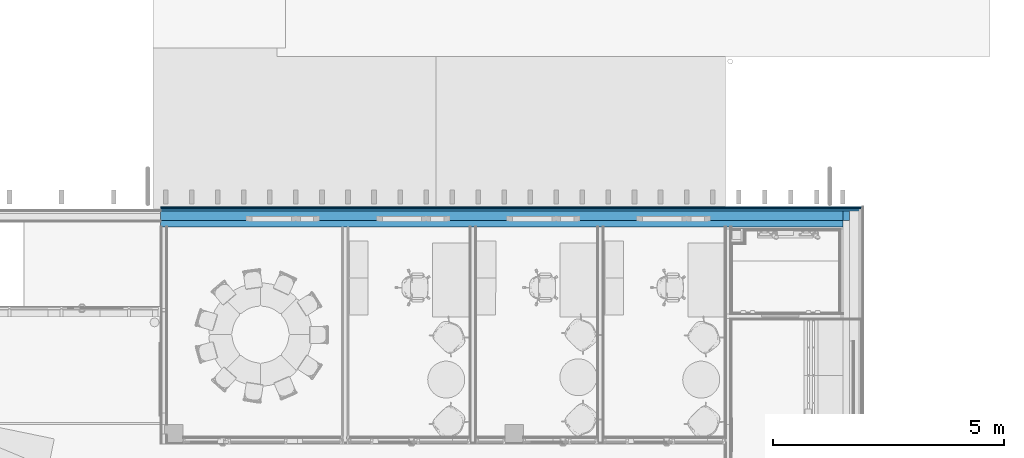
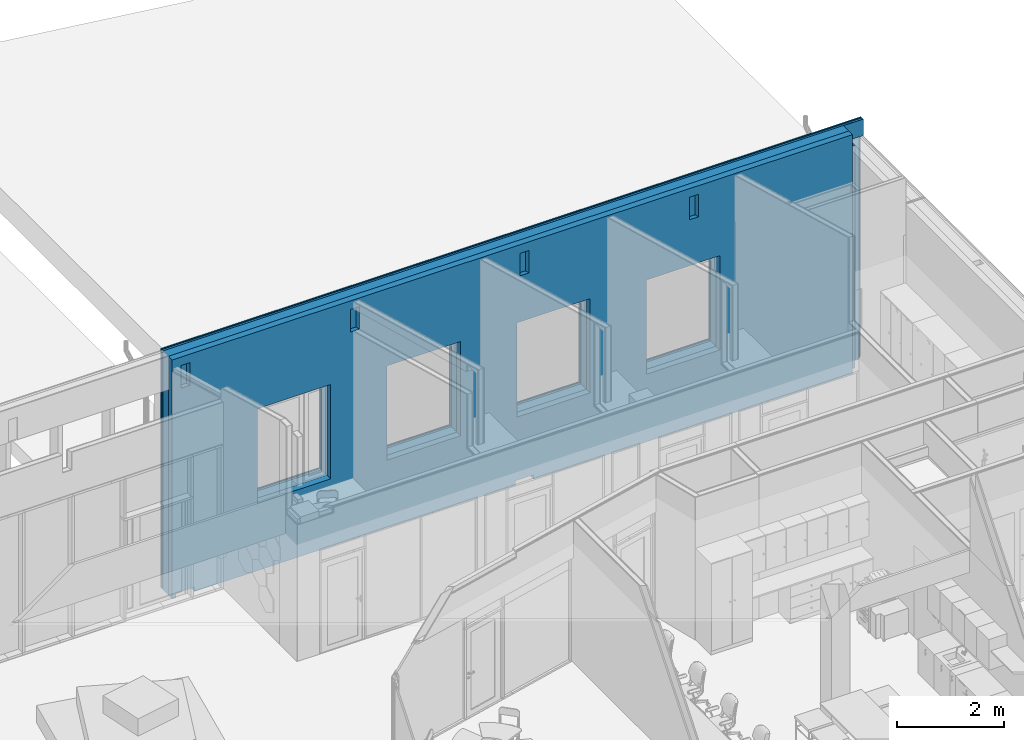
# One storey, part 48 of 153: 5 building element parts, 4 openings, 1 element without a shape of its own.
"""IFC2X3 building model written with IfcOpenShell, lengths in millimetres."""

from ifc_helpers import new_model, entity, si_unit, converted_unit, derived_unit, money_unit, direction, frame, origin_with_axes, place, context, subcontext, project, spatial, faceted_brep, material, type_object, element, aggregate, save


model = new_model("IFC2X3")

# Units and contexts
model_context = context("Model", 3, precision=0.01, world=origin_with_axes(), true_north=direction((0.0, 1.0)))
body_context = subcontext(model_context, "Body", "Model", "MODEL_VIEW")
ifc_project = project(units=[si_unit("LENGTHUNIT", "METRE", prefix="MILLI"), si_unit("AREAUNIT", "SQUARE_METRE"), si_unit("VOLUMEUNIT", "CUBIC_METRE"), converted_unit("PLANEANGLEUNIT", "DEGREE", entity("IfcPlaneAngleMeasure", 0.0174532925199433), si_unit("PLANEANGLEUNIT", "RADIAN"), dimensions=[0, 0, 0, 0, 0, 0, 0]), money_unit("EUR"), converted_unit("TIMEUNIT", "Year", entity("IfcTimeMeasure", 31557600.0), si_unit("TIMEUNIT", "SECOND"), dimensions=[0, 0, 1, 0, 0, 0, 0]), si_unit("MASSUNIT", "GRAM", prefix="KILO"), si_unit("THERMODYNAMICTEMPERATUREUNIT", "DEGREE_CELSIUS"), si_unit("LUMINOUSINTENSITYUNIT", "LUMEN"), si_unit("ENERGYUNIT", "JOULE", prefix="MEGA"), derived_unit("THERMALCONDUCTANCEUNIT", [(si_unit("POWERUNIT", "WATT"), 1), (si_unit("LENGTHUNIT", "METRE"), -1), (si_unit("THERMODYNAMICTEMPERATUREUNIT", "KELVIN"), -1)]), derived_unit("SPECIFICHEATCAPACITYUNIT", [(si_unit("ENERGYUNIT", "JOULE"), 1), (si_unit("MASSUNIT", "GRAM", prefix="KILO"), -1), (si_unit("THERMODYNAMICTEMPERATUREUNIT", "KELVIN"), -1)]), derived_unit("MASSDENSITYUNIT", [(si_unit("MASSUNIT", "GRAM", prefix="KILO"), 1), (si_unit("VOLUMEUNIT", "CUBIC_METRE"), -1)])], contexts=[model_context])

# Site, building, storey
site_placement = place(None, frame((0.0, 0.0, 8650.0), z_axis=(0.0, 0.0, 1.0), x_axis=(1.0, 0.0, 0.0)))
site = spatial("IfcSite", under=ifc_project, at=site_placement, Name="43301:001:0844", CompositionType="ELEMENT")
building_placement = place(site_placement, origin_with_axes())
building = spatial("IfcBuilding", under=site, at=building_placement, Name="Kuressaare Ametikooli tuulikute mehaanikute õppekorpus", CompositionType="ELEMENT")
storey_placement = place(building_placement, frame((0.0, 0.0, 4100.0), z_axis=(0.0, 0.0, 1.0), x_axis=(1.0, 0.0, 0.0)))
storey = spatial("IfcBuildingStorey", under=building, at=storey_placement, Name="2.korrus", CompositionType="ELEMENT", Elevation=4100.0)

# Wall, openings, building element parts
wall_type = type_object("IfcWallType", Name="VS1 437", PredefinedType="NOTDEFINED")
wall_placement = place(storey_placement, frame((118281.2757303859, 28244.06892395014, -1400.0), z_axis=(0.0, 0.0, 1.0), x_axis=(1.0, 0.0, 0.0)))
wall = element("IfcWall", 1, at=wall_placement, inside=storey, type_object=wall_type, Name="Sisesein")
opening_1_placement = place(wall_placement, frame((5453.826951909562, 0.0, 1550.000000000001), z_axis=(0.0, 0.0, 1.0), x_axis=(1.0, 0.0, 0.0)))
element("IfcOpeningElement", 2, at=opening_1_placement, cuts=wall, Name="A-2", context=body_context, shape_type="Brep", body=[
    faceted_brep([(-795.0000000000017, 236.9999999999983, 0.0), (-795.0000000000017, 236.9999999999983, 2160.0), (-795.0000000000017, 438.0000000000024, 2160.0), (-795.0000000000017, 438.0000000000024, 0.0), (-795.0000000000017, -1.000000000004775, 0.0), (-795.0000000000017, -1.000000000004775, 2160.0), (795.0000000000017, 236.9999999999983, 2160.0), (795.0000000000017, 438.0000000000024, 2160.0), (795.0000000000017, -1.000000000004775, 2160.0), (795.0000000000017, 438.0000000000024, 0.0), (795.0000000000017, 236.9999999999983, 0.0), (795.0000000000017, -1.000000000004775, 0.0)], [[[0, 1, 2, 3]], [[1, 0, 4, 5]], [[6, 7, 2, 1, 5, 8]], [[7, 9, 3, 2]], [[0, 3, 9, 10, 11, 4]], [[5, 4, 11, 8]], [[6, 10, 9, 7]], [[10, 6, 8, 11]]]),
])
opening_2_placement = place(wall_placement, frame((8265.82695190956, 0.0, 1550.000000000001), z_axis=(0.0, 0.0, 1.0), x_axis=(1.0, 0.0, 0.0)))
element("IfcOpeningElement", 3, at=opening_2_placement, cuts=wall, Name="A-2", context=body_context, shape_type="Brep", body=[
    faceted_brep([(-795.0000000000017, 237.0000000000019, 0.0), (-795.0000000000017, 237.0000000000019, 2160.0), (-795.0000000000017, 438.0000000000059, 2160.0), (-795.0000000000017, 438.0000000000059, 0.0), (-795.0000000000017, -1.000000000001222, 0.0), (-795.0000000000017, -1.000000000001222, 2160.0), (795.0000000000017, 237.0000000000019, 2160.0), (795.0000000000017, 438.0000000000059, 2160.0), (795.0000000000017, -1.000000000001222, 2160.0), (795.0000000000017, 438.0000000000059, 0.0), (795.0000000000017, 237.0000000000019, 0.0), (795.0000000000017, -1.000000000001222, 0.0)], [[[0, 1, 2, 3]], [[1, 0, 4, 5]], [[6, 7, 2, 1, 5, 8]], [[7, 9, 3, 2]], [[0, 3, 9, 10, 11, 4]], [[5, 4, 11, 8]], [[6, 10, 9, 7]], [[10, 6, 8, 11]]]),
])
opening_3_placement = place(wall_placement, frame((11077.82695190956, 0.0, 1550.000000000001), z_axis=(0.0, 0.0, 1.0), x_axis=(1.0, 0.0, 0.0)))
element("IfcOpeningElement", 4, at=opening_3_placement, cuts=wall, Name="A-2", context=body_context, shape_type="Brep", body=[
    faceted_brep([(-794.9999999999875, 237.0000000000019, 0.0), (-794.9999999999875, 237.0000000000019, 2160.0), (-794.9999999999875, 438.0000000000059, 2160.0), (-794.9999999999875, 438.0000000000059, 0.0), (-794.9999999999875, -1.000000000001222, 0.0), (-794.9999999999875, -1.000000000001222, 2160.0), (794.9999999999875, 237.0000000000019, 2160.0), (794.9999999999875, 438.0000000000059, 2160.0), (794.9999999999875, -1.000000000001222, 2160.0), (794.9999999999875, 438.0000000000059, 0.0), (794.9999999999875, 237.0000000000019, 0.0), (794.9999999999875, -1.000000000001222, 0.0)], [[[0, 1, 2, 3]], [[1, 0, 4, 5]], [[6, 7, 2, 1, 5, 8]], [[7, 9, 3, 2]], [[0, 3, 9, 10, 11, 4]], [[5, 4, 11, 8]], [[6, 10, 9, 7]], [[10, 6, 8, 11]]]),
])
opening_4_placement = place(wall_placement, frame((2641.826951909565, 0.0, 1550.000000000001), z_axis=(0.0, 0.0, 1.0), x_axis=(1.0, 0.0, 0.0)))
element("IfcOpeningElement", 5, at=opening_4_placement, cuts=wall, Name="A-2", context=body_context, shape_type="Brep", body=[
    faceted_brep([(-795.0000000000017, 236.9999999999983, 0.0), (-795.0000000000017, 236.9999999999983, 2160.0), (-795.0000000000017, 438.0000000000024, 2160.0), (-795.0000000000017, 438.0000000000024, 0.0), (-795.0000000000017, -1.000000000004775, 0.0), (-795.0000000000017, -1.000000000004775, 2160.0), (795.0000000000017, 236.9999999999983, 2160.0), (795.0000000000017, 438.0000000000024, 2160.0), (795.0000000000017, -1.000000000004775, 2160.0), (795.0000000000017, 438.0000000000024, 0.0), (795.0000000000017, 236.9999999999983, 0.0), (795.0000000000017, -1.000000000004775, 0.0)], [[[0, 1, 2, 3]], [[1, 0, 4, 5]], [[6, 7, 2, 1, 5, 8]], [[7, 9, 3, 2]], [[0, 3, 9, 10, 11, 4]], [[5, 4, 11, 8]], [[6, 10, 9, 7]], [[10, 6, 8, 11]]]),
])
ifc_material_1 = material(Name="Air Space - Frame")
building_element_part_1_placement = place(wall_placement, origin_with_axes())
building_element_part_1 = element("IfcBuildingElementPart", 6, at=building_element_part_1_placement, material=ifc_material_1, Name="Air Space - Frame", context=body_context, shape_type="Brep", body=[
    faceted_brep([(15132.67071126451, 389.0000000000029, 5100.0), (15180.67071126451, 389.0000000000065, 5100.0), (15180.6707082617, 389.0000000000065, 5477.574080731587), (5.515573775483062e-06, 388.9999999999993, 5477.57408349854), (0.0, 388.9999999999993, 0.0), (15132.67071126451, 389.00000000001, 0.0), (15132.67071126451, 389.00000000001, 233.6392373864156), (6248.826951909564, 389.0000000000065, 1550.000000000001), (4658.82695190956, 389.0000000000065, 1550.000000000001), (4658.82695190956, 389.0000000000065, 3710.000000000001), (6248.826951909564, 389.0000000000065, 3710.000000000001), (9060.826951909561, 389.0000000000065, 3710.000000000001), (9060.826951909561, 389.0000000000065, 1550.000000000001), (7470.826951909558, 389.0000000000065, 1550.000000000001), (7470.826951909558, 389.0000000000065, 3710.000000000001), (1846.826951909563, 389.0000000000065, 3710.000000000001), (3436.826951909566, 389.0000000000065, 3710.000000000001), (3436.826951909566, 389.0000000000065, 1550.000000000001), (1846.826951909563, 389.0000000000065, 1550.000000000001), (10282.82695190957, 389.0000000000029, 1550.000000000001), (10282.82695190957, 389.0000000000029, 3710.000000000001), (11872.82695190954, 389.0000000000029, 3710.000000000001), (11872.82695190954, 389.0000000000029, 1550.000000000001), (15132.67071126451, 417.0000000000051, 5100.0), (15180.67071126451, 417.0000000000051, 5100.0), (15180.6707082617, 417.0000000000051, 5477.574080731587), (5.515573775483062e-06, 417.0000000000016, 5477.57408349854), (0.0, 417.0000000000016, 0.0), (15132.67071126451, 417.0000000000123, 0.0), (15132.67071126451, 417.0000000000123, 233.6392374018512), (6248.826951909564, 417.0000000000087, 1550.000000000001), (4658.82695190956, 417.0000000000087, 1550.000000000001), (4658.82695190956, 417.0000000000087, 3710.000000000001), (6248.826951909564, 417.0000000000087, 3710.000000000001), (9060.826951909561, 417.0000000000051, 3710.000000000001), (9060.826951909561, 417.0000000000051, 1550.000000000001), (7470.826951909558, 417.0000000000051, 1550.000000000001), (7470.826951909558, 417.0000000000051, 3710.000000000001), (3436.826951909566, 417.0000000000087, 3710.000000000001), (1846.826951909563, 417.0000000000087, 3710.000000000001), (3436.826951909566, 417.0000000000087, 1550.000000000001), (1846.826951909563, 417.0000000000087, 1550.000000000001), (10282.82695190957, 417.0000000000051, 1550.000000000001), (10282.82695190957, 417.0000000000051, 3710.000000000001), (11872.82695190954, 417.0000000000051, 3710.000000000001), (11872.82695190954, 417.0000000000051, 1550.000000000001)], [[[0, 1, 2, 3, 4, 5, 6], [7, 8, 9, 10], [11, 12, 13, 14], [15, 16, 17, 18], [19, 20, 21, 22]], [[1, 0, 23, 24]], [[1, 24, 25, 2]], [[25, 26, 3, 2]], [[4, 3, 26, 27]], [[28, 5, 4, 27]], [[6, 5, 28, 29, 23, 0]], [[7, 30, 31, 8]], [[8, 31, 32, 9]], [[9, 32, 33, 10]], [[10, 33, 30, 7]], [[12, 11, 34, 35]], [[13, 12, 35, 36]], [[14, 13, 36, 37]], [[11, 14, 37, 34]], [[38, 16, 15, 39]], [[40, 17, 16, 38]], [[41, 18, 17, 40]], [[39, 15, 18, 41]], [[42, 43, 20, 19]], [[43, 44, 21, 20]], [[44, 45, 22, 21]], [[45, 42, 19, 22]], [[27, 26, 25, 24, 23, 29, 28], [32, 31, 30, 33], [34, 37, 36, 35], [40, 38, 39, 41], [42, 45, 44, 43]]]),
])
building_element_part_2_placement = place(wall_placement, origin_with_axes())
building_element_part_2 = element("IfcBuildingElementPart", 7, at=building_element_part_2_placement, material=ifc_material_1, Name="Air Space - Frame", context=body_context, shape_type="Brep", body=[
    faceted_brep([(15088.6707112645, 345.0000000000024, 5100.0), (15180.67071126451, 345.000000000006, 5100.0), (15180.6707082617, 345.000000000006, 5477.574080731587), (5.515573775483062e-06, 344.9999999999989, 5477.57408349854), (0.0, 344.9999999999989, 0.0), (15088.6707112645, 345.0000000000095, 0.0), (15088.6707112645, 345.0000000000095, 233.6392373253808), (6248.826951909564, 345.000000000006, 1550.000000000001), (4658.82695190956, 345.000000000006, 1550.000000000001), (4658.82695190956, 345.000000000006, 3710.000000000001), (6248.826951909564, 345.000000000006, 3710.000000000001), (9060.826951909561, 345.000000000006, 3710.000000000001), (9060.826951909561, 345.000000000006, 1550.000000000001), (7470.826951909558, 345.000000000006, 1550.000000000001), (7470.826951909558, 345.000000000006, 3710.000000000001), (1846.826951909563, 345.000000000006, 3710.000000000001), (3436.826951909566, 345.000000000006, 3710.000000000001), (3436.826951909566, 345.000000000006, 1550.000000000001), (1846.826951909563, 345.000000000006, 1550.000000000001), (10282.82695190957, 345.0000000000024, 1550.000000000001), (10282.82695190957, 345.0000000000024, 3710.000000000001), (11872.82695190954, 345.0000000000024, 3710.000000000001), (11872.82695190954, 345.0000000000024, 1550.000000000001), (15088.6707112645, 389.0000000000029, 5100.0), (15180.67071126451, 389.0000000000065, 5100.0), (15180.6707082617, 389.0000000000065, 5477.574080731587), (5.515573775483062e-06, 388.9999999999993, 5477.57408349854), (0.0, 388.9999999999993, 0.0), (15088.6707112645, 389.00000000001, 0.0), (15088.6707112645, 389.00000000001, 233.6392373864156), (6248.826951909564, 389.0000000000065, 1550.000000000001), (4658.82695190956, 389.0000000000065, 1550.000000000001), (4658.82695190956, 389.0000000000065, 3710.000000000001), (6248.826951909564, 389.0000000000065, 3710.000000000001), (9060.826951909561, 389.0000000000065, 3710.000000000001), (9060.826951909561, 389.0000000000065, 1550.000000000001), (7470.826951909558, 389.0000000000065, 1550.000000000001), (7470.826951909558, 389.0000000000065, 3710.000000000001), (3436.826951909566, 389.0000000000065, 3710.000000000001), (1846.826951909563, 389.0000000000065, 3710.000000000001), (3436.826951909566, 389.0000000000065, 1550.000000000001), (1846.826951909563, 389.0000000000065, 1550.000000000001), (10282.82695190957, 389.0000000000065, 1550.000000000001), (10282.82695190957, 389.0000000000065, 3710.000000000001), (11872.82695190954, 389.0000000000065, 3710.000000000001), (11872.82695190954, 389.0000000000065, 1550.000000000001)], [[[0, 1, 2, 3, 4, 5, 6], [7, 8, 9, 10], [11, 12, 13, 14], [15, 16, 17, 18], [19, 20, 21, 22]], [[1, 0, 23, 24]], [[1, 24, 25, 2]], [[25, 26, 3, 2]], [[4, 3, 26, 27]], [[28, 5, 4, 27]], [[6, 5, 28, 29, 23, 0]], [[7, 30, 31, 8]], [[8, 31, 32, 9]], [[9, 32, 33, 10]], [[10, 33, 30, 7]], [[12, 11, 34, 35]], [[13, 12, 35, 36]], [[14, 13, 36, 37]], [[11, 14, 37, 34]], [[38, 16, 15, 39]], [[40, 17, 16, 38]], [[41, 18, 17, 40]], [[39, 15, 18, 41]], [[42, 43, 20, 19]], [[43, 44, 21, 20]], [[44, 45, 22, 21]], [[45, 42, 19, 22]], [[27, 26, 25, 24, 23, 29, 28], [32, 31, 30, 33], [34, 37, 36, 35], [40, 38, 39, 41], [42, 45, 44, 43]]]),
])
ifc_material_2 = material(Name="Soojustus - Mineraalvill jäik")
building_element_part_3_placement = place(wall_placement, origin_with_axes())
building_element_part_3 = element("IfcBuildingElementPart", 8, at=building_element_part_3_placement, material=ifc_material_2, Name="Soojustus - Mineraalvill jäik", context=body_context, shape_type="Brep", body=[
    faceted_brep([(14743.67070827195, 140.0000000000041, 5477.57408349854), (5.515573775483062e-06, 140.0000000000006, 5477.57408349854), (0.0, 140.0000000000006, 0.0), (86.67084111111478, 140.0000000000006, 0.0), (86.67084111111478, 140.0000000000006, 100.0000000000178), (486.6708411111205, 140.0000000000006, 100.0000000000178), (486.6708411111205, 140.0000000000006, 0.0), (7436.792626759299, 140.0000000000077, 0.0), (7436.792626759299, 140.0000000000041, 100.0000000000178), (7836.792626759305, 140.0000000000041, 100.0000000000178), (7836.792626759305, 140.0000000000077, 0.0), (14883.67071126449, 140.0000000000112, 0.0), (14883.67071126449, 140.0000000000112, 233.6392372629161), (14883.67071126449, 140.0000000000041, 5100.0), (14743.67070826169, 140.0000000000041, 5100.0), (6248.826951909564, 140.0000000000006, 3710.000000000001), (6248.826951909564, 140.0000000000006, 1550.000000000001), (4658.82695190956, 140.0000000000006, 1550.000000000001), (4658.82695190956, 140.0000000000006, 3710.000000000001), (7470.826951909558, 140.0000000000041, 1550.000000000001), (7470.826951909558, 140.0000000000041, 3710.000000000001), (9060.826951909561, 140.0000000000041, 3710.000000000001), (9060.826951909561, 140.0000000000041, 1550.000000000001), (3436.826951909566, 140.0000000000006, 3710.000000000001), (3436.826951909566, 140.0000000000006, 1550.000000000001), (1846.826951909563, 140.0000000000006, 1550.000000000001), (1846.826951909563, 140.0000000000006, 3710.000000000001), (10282.82695190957, 140.0000000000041, 1550.000000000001), (10282.82695190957, 140.0000000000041, 3710.000000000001), (11872.82695190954, 140.0000000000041, 3710.000000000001), (11872.82695190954, 140.0000000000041, 1550.000000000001), (5.515573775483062e-06, 344.9999999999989, 5477.57408349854), (14743.67070826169, 339.9999999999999, 5477.57408349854), (15180.6707082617, 339.9999999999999, 5477.57408349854), (15180.6707082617, 345.000000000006, 5477.574080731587), (0.0, 344.9999999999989, 0.0), (7436.792626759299, 339.9999999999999, 0.0), (486.6708411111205, 339.9999999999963, 0.0), (86.67084111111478, 339.9999999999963, 0.0), (14883.67071126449, 345.0000000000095, 0.0), (7836.792626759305, 339.9999999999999, 0.0), (86.67084111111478, 339.9999999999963, 100.0000000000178), (486.6708411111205, 339.9999999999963, 100.0000000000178), (7436.792626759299, 339.9999999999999, 100.0000000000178), (7836.792626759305, 339.9999999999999, 100.0000000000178), (14883.67071126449, 345.0000000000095, 233.6392373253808), (14883.67071126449, 345.0000000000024, 5100.0), (14883.67071126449, 339.9999999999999, 5100.0), (14743.67070826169, 339.9999999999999, 5100.0), (6248.826951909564, 345.0000000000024, 3710.000000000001), (6248.826951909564, 345.0000000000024, 1550.000000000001), (4658.82695190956, 345.0000000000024, 1550.000000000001), (4658.82695190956, 345.0000000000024, 3710.000000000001), (7470.826951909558, 345.0000000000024, 1550.000000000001), (7470.826951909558, 345.0000000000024, 3710.000000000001), (9060.826951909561, 345.0000000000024, 3710.000000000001), (9060.826951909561, 345.0000000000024, 1550.000000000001), (3436.826951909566, 345.000000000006, 3710.000000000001), (3436.826951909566, 345.000000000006, 1550.000000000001), (1846.826951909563, 345.000000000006, 1550.000000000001), (1846.826951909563, 345.000000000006, 3710.000000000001), (10282.82695190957, 345.0000000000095, 1550.000000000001), (10282.82695190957, 345.0000000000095, 3710.000000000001), (11872.82695190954, 345.0000000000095, 3710.000000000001), (11872.82695190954, 345.0000000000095, 1550.000000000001), (15180.67071126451, 339.9999999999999, 5100.0), (15180.67071126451, 345.000000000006, 5100.0)], [[[0, 1, 2, 3, 4, 5, 6, 7, 8, 9, 10, 11, 12, 13, 14], [15, 16, 17, 18], [19, 20, 21, 22], [23, 24, 25, 26], [27, 28, 29, 30]], [[31, 1, 0, 32, 33, 34]], [[31, 35, 2, 1]], [[36, 7, 6, 37, 38, 3, 2, 35, 39, 11, 10, 40]], [[3, 38, 41, 4]], [[5, 4, 41, 42]], [[37, 6, 5, 42]], [[7, 36, 43, 8]], [[9, 8, 43, 44]], [[40, 10, 9, 44]], [[39, 45, 46, 47, 13, 12, 11]], [[48, 14, 13, 47]], [[14, 48, 32, 0]], [[15, 49, 50, 16]], [[50, 51, 17, 16]], [[51, 52, 18, 17]], [[18, 52, 49, 15]], [[20, 19, 53, 54]], [[55, 21, 20, 54]], [[56, 22, 21, 55]], [[19, 22, 56, 53]], [[23, 57, 58, 24]], [[58, 59, 25, 24]], [[59, 60, 26, 25]], [[26, 60, 57, 23]], [[28, 27, 61, 62]], [[63, 29, 28, 62]], [[64, 30, 29, 63]], [[27, 30, 64, 61]], [[48, 47, 65, 33, 32]], [[34, 33, 65, 66]], [[35, 31, 34, 66, 46, 45, 39], [52, 51, 50, 49], [56, 55, 54, 53], [60, 59, 58, 57], [64, 63, 62, 61]], [[38, 37, 42, 41]], [[36, 40, 44, 43]], [[46, 66, 65, 47]]]),
])
ifc_material_3 = material(Name="Puit - CLT")
building_element_part_4_placement = place(wall_placement, origin_with_axes())
building_element_part_4 = element("IfcBuildingElementPart", 9, at=building_element_part_4_placement, material=ifc_material_3, Name="Puit - CLT", context=body_context, shape_type="Brep", body=[
    faceted_brep([(7836.792626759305, 0.0, 0.0), (14743.6707112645, 0.0, 0.0), (14743.67070827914, 0.0, 5477.57408349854), (5.515573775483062e-06, 0.0, 5477.57408349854), (5.515573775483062e-06, 0.0, 1400.0), (0.0, 0.0, 0.0), (86.67084111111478, 0.0, 0.0), (86.67084111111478, 0.0, 100.0000000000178), (486.6708411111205, 0.0, 100.0000000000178), (486.6708411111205, 0.0, 0.0), (7436.792626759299, 0.0, 0.0), (7436.792626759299, 0.0, 100.0000000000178), (7836.792626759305, 0.0, 100.0000000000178), (11411.79262675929, 0.0, 4763.212438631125), (11211.7926267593, 0.0, 4763.212438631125), (11211.7926267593, 0.0, 5280.850515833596), (11411.79262675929, 0.0, 5280.850515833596), (4061.670841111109, 0.0, 4763.212438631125), (3861.67084111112, 0.0, 4763.212438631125), (3861.67084111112, 0.0, 5280.850515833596), (4061.670841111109, 0.0, 5280.850515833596), (7736.792626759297, 0.0, 4763.212438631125), (7536.792626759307, 0.0, 4763.212438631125), (7536.792626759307, 0.0, 5280.850515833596), (7736.792626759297, 0.0, 5280.850515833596), (386.6708411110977, 0.0, 4763.212438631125), (186.6708411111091, 0.0, 4763.212438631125), (186.6708411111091, 0.0, 5280.850515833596), (386.6708411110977, 0.0, 5280.850515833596), (6248.826951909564, 0.0, 1550.000000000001), (4658.82695190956, 0.0, 1550.000000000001), (4658.82695190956, 0.0, 3710.000000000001), (6248.826951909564, 0.0, 3710.000000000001), (9060.826951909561, 0.0, 3710.000000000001), (9060.826951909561, 0.0, 1550.000000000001), (7470.826951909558, 0.0, 1550.000000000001), (7470.826951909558, 0.0, 3710.000000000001), (1846.826951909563, 0.0, 3710.000000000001), (3436.826951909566, 0.0, 3710.000000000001), (3436.826951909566, 0.0, 1550.000000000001), (1846.826951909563, 0.0, 1550.000000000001), (10282.82695190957, 0.0, 1550.000000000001), (10282.82695190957, 0.0, 3710.000000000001), (11872.82695190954, 0.0, 3710.000000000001), (11872.82695190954, 0.0, 1550.000000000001), (7836.792626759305, 140.0000000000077, 0.0), (14743.6707112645, 140.0000000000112, 0.0), (14743.6707112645, 140.0000000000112, 233.6392372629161), (14743.67070827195, 140.0000000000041, 5477.57408349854), (5.515573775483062e-06, 140.0000000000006, 5477.57408349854), (0.0, 140.0000000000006, 0.0), (86.67084111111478, 140.0000000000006, 0.0), (86.67084111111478, 140.0000000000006, 100.0000000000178), (486.6708411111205, 140.0000000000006, 100.0000000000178), (486.6708411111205, 140.0000000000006, 0.0), (7436.792626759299, 140.0000000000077, 0.0), (7436.792626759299, 140.0000000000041, 100.0000000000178), (7836.792626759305, 140.0000000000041, 100.0000000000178), (11411.79262675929, 140.0018760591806, 4725.69906306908), (11211.7926267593, 140.0018760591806, 4725.69906306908), (11211.7926267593, 140.0018760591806, 5243.337140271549), (11411.79262675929, 140.0018760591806, 5243.337140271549), (4061.670841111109, 140.0018760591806, 4725.699063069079), (3861.67084111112, 140.0018760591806, 4725.699063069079), (3861.67084111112, 140.0018760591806, 5243.337140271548), (4061.670841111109, 140.0018760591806, 5243.337140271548), (7736.792626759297, 140.0018760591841, 4725.699063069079), (7536.792626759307, 140.0018760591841, 4725.699063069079), (7536.792626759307, 140.0018760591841, 5243.337140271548), (7736.792626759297, 140.0018760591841, 5243.337140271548), (386.6708411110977, 140.001876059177, 4725.69906306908), (186.6708411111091, 140.001876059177, 4725.69906306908), (186.6708411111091, 140.001876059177, 5243.337140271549), (386.6708411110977, 140.001876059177, 5243.337140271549), (6248.826951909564, 140.0000000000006, 1550.000000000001), (4658.82695190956, 140.0000000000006, 1550.000000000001), (4658.82695190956, 140.0000000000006, 3710.000000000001), (6248.826951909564, 140.0000000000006, 3710.000000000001), (9060.826951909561, 140.0000000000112, 3710.000000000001), (9060.826951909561, 140.0000000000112, 1550.000000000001), (7470.826951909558, 140.0000000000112, 1550.000000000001), (7470.826951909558, 140.0000000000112, 3710.000000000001), (3436.826951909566, 140.0000000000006, 3710.000000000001), (1846.826951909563, 140.0000000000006, 3710.000000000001), (3436.826951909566, 140.0000000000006, 1550.000000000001), (1846.826951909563, 140.0000000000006, 1550.000000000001), (10282.82695190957, 140.0000000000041, 1550.000000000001), (10282.82695190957, 140.0000000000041, 3710.000000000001), (11872.82695190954, 140.0000000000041, 3710.000000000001), (11872.82695190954, 140.0000000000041, 1550.000000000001)], [[[0, 1, 2, 3, 4, 5, 6, 7, 8, 9, 10, 11, 12], [13, 14, 15, 16], [17, 18, 19, 20], [21, 22, 23, 24], [25, 26, 27, 28], [29, 30, 31, 32], [33, 34, 35, 36], [37, 38, 39, 40], [41, 42, 43, 44]], [[0, 45, 46, 1]], [[1, 46, 47, 48, 2]], [[49, 3, 2, 48]], [[4, 3, 49, 50, 5]], [[51, 6, 5, 50]], [[51, 52, 7, 6]], [[52, 53, 8, 7]], [[53, 54, 9, 8]], [[55, 10, 9, 54]], [[55, 56, 11, 10]], [[56, 57, 12, 11]], [[57, 45, 0, 12]], [[13, 58, 59, 14]], [[14, 59, 60, 15]], [[15, 60, 61, 16]], [[16, 61, 58, 13]], [[17, 62, 63, 18]], [[18, 63, 64, 19]], [[19, 64, 65, 20]], [[20, 65, 62, 17]], [[21, 66, 67, 22]], [[22, 67, 68, 23]], [[23, 68, 69, 24]], [[24, 69, 66, 21]], [[25, 70, 71, 26]], [[26, 71, 72, 27]], [[27, 72, 73, 28]], [[28, 73, 70, 25]], [[29, 74, 75, 30]], [[30, 75, 76, 31]], [[31, 76, 77, 32]], [[32, 77, 74, 29]], [[34, 33, 78, 79]], [[35, 34, 79, 80]], [[36, 35, 80, 81]], [[33, 36, 81, 78]], [[82, 38, 37, 83]], [[84, 39, 38, 82]], [[85, 40, 39, 84]], [[83, 37, 40, 85]], [[86, 87, 42, 41]], [[87, 88, 43, 42]], [[88, 89, 44, 43]], [[89, 86, 41, 44]], [[55, 54, 53, 52, 51, 50, 49, 48, 47, 46, 45, 57, 56], [60, 59, 58, 61], [64, 63, 62, 65], [68, 67, 66, 69], [72, 71, 70, 73], [76, 75, 74, 77], [78, 81, 80, 79], [84, 82, 83, 85], [86, 89, 88, 87]]]),
])
ifc_material_4 = material(Name="Puit - voodrilaud")
building_element_part_5_placement = place(wall_placement, origin_with_axes())
building_element_part_5 = element("IfcBuildingElementPart", 10, at=building_element_part_5_placement, material=ifc_material_4, Name="Puit - voodrilaud", context=body_context, shape_type="Brep", body=[
    faceted_brep([(15160.6707112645, 417.0000000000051, 5100.0), (15180.67071126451, 417.0000000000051, 5100.0), (15180.6707082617, 417.0000000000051, 5477.574080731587), (5.515573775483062e-06, 417.0000000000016, 5477.57408349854), (0.0, 417.0000000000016, 0.0), (15160.6707112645, 417.0000000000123, 0.0), (15160.6707112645, 417.0000000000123, 233.6392374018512), (6248.826951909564, 417.0000000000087, 1550.000000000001), (4658.82695190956, 417.0000000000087, 1550.000000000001), (4658.82695190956, 417.0000000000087, 3710.000000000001), (6248.826951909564, 417.0000000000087, 3710.000000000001), (9060.826951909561, 417.0000000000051, 3710.000000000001), (9060.826951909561, 417.0000000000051, 1550.000000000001), (7470.826951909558, 417.0000000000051, 1550.000000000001), (7470.826951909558, 417.0000000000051, 3710.000000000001), (1846.826951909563, 417.0000000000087, 3710.000000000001), (3436.826951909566, 417.0000000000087, 3710.000000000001), (3436.826951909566, 417.0000000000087, 1550.000000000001), (1846.826951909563, 417.0000000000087, 1550.000000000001), (10282.82695190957, 417.0000000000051, 1550.000000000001), (10282.82695190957, 417.0000000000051, 3710.000000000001), (11872.82695190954, 417.0000000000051, 3710.000000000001), (11872.82695190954, 417.0000000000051, 1550.000000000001), (15160.6707112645, 437.0000000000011, 5100.0), (15180.67071126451, 437.0000000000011, 5100.0), (15180.6707082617, 437.0000000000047, 5477.574080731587), (5.515573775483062e-06, 437.0000000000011, 5477.57408349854), (5.515573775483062e-06, 437.0000089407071, 1400.0), (0.0, 437.0000089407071, 0.0), (15160.6707112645, 437.0000000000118, 0.0), (15160.6707112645, 437.0000000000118, 233.6392374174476), (6248.826951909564, 437.0000000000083, 1550.000000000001), (4658.82695190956, 437.0000000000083, 1550.000000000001), (4658.82695190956, 437.0000000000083, 3710.000000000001), (6248.826951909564, 437.0000000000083, 3710.000000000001), (9060.826951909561, 437.0000000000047, 3710.000000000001), (9060.826951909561, 437.0000000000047, 1550.000000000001), (7470.826951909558, 437.0000000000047, 1550.000000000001), (7470.826951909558, 437.0000000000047, 3710.000000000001), (3436.826951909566, 437.0000089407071, 3710.000000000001), (1846.826951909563, 437.0000089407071, 3710.000000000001), (3436.826951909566, 437.0000089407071, 1550.000000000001), (1846.826951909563, 437.0000089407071, 1550.000000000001), (10282.82695190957, 437.0000000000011, 1550.000000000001), (10282.82695190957, 437.0000000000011, 3710.000000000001), (11872.82695190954, 437.0000000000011, 3710.000000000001), (11872.82695190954, 437.0000000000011, 1550.000000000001)], [[[0, 1, 2, 3, 4, 5, 6], [7, 8, 9, 10], [11, 12, 13, 14], [15, 16, 17, 18], [19, 20, 21, 22]], [[23, 24, 1, 0]], [[1, 24, 25, 2]], [[25, 26, 3, 2]], [[27, 28, 4, 3, 26]], [[29, 5, 4, 28]], [[6, 5, 29, 30, 23, 0]], [[7, 31, 32, 8]], [[8, 32, 33, 9]], [[9, 33, 34, 10]], [[10, 34, 31, 7]], [[12, 11, 35, 36]], [[13, 12, 36, 37]], [[14, 13, 37, 38]], [[11, 14, 38, 35]], [[39, 16, 15, 40]], [[41, 17, 16, 39]], [[42, 18, 17, 41]], [[40, 15, 18, 42]], [[43, 44, 20, 19]], [[44, 45, 21, 20]], [[45, 46, 22, 21]], [[46, 43, 19, 22]], [[26, 25, 24, 23, 30, 29, 28, 27], [33, 32, 31, 34], [35, 38, 37, 36], [41, 39, 40, 42], [43, 46, 45, 44]]]),
])
aggregate(wall, [building_element_part_1, building_element_part_2, building_element_part_3, building_element_part_4, building_element_part_5])

save(model, "model.ifc")
